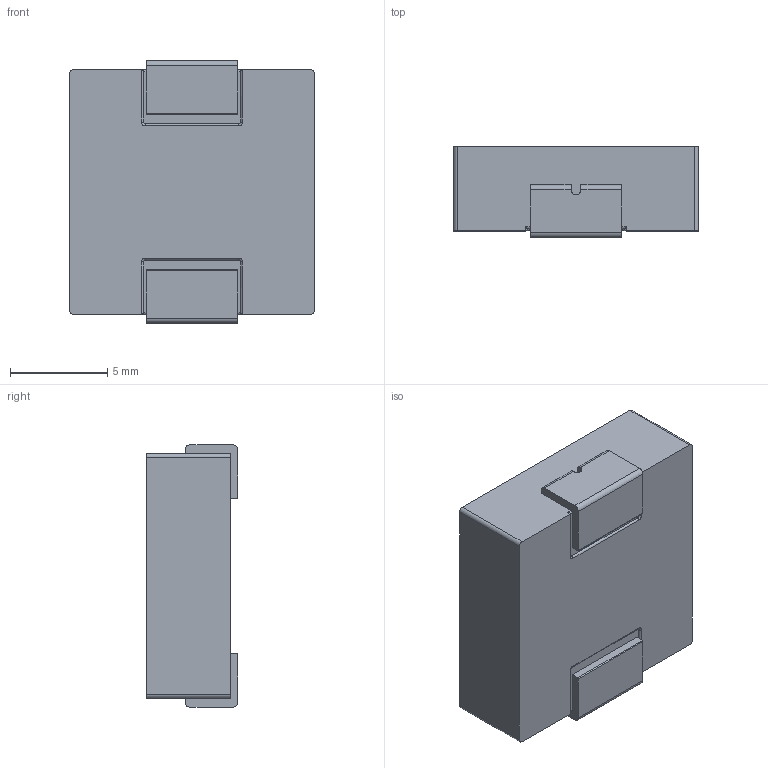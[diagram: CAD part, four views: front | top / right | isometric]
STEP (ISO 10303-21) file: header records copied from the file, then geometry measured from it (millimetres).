
FILE_DESCRIPTION (( 'STEP AP203' ), '1' );
FILE_NAME ('PA4346A.STEP', '2021-05-13T02:42:16', ( '' ), ( '' ), 'SwSTEP 2.0', 'SolidWorks 2015', '' );
FILE_SCHEMA (( 'CONFIG_CONTROL_DESIGN' ));
Length unit declared in the file: millimetre
Products named in the file (1): PA4346A
Bounding box: 12.6 x 4.7 x 13.5 mm (x, y, z)
Volume: 708.3 mm3; surface area: 560.3 mm2
Topology: 1 solids, 1 shells, 170 faces, 472 edges, 312 vertices
Faces by surface type: plane 92, bspline 46, cylinder 28, torus 4
Entity records: 5745 total; most frequent: CARTESIAN_POINT 1609, ORIENTED_EDGE 944, DIRECTION 670, EDGE_CURVE 472, LINE 324, VECTOR 324, VERTEX_POINT 312, EDGE_LOOP 178
